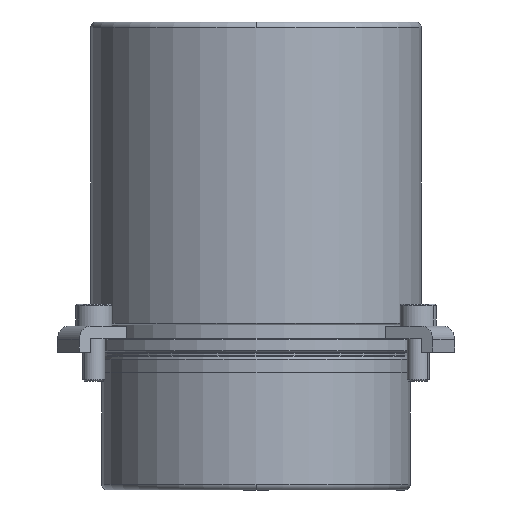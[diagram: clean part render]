
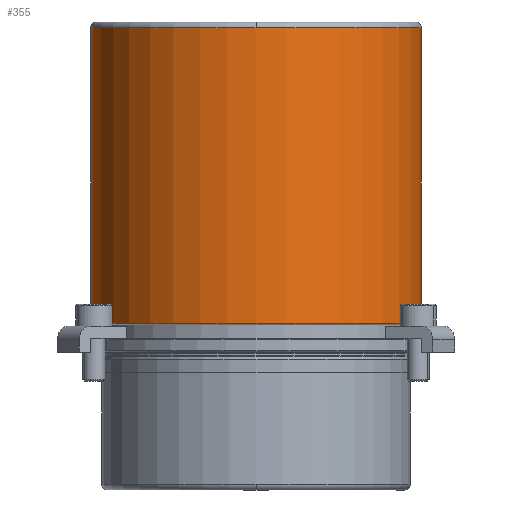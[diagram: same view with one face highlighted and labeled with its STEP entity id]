
A CAD part, front view. The second image highlights one B-rep face of the part: STEP entity #355.
In plain terms, the highlighted cylindrical face has radius 60 mm (diameter 120 mm), a partial arc.
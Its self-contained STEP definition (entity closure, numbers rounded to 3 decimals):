
#269=CARTESIAN_POINT('',(0.0,-60.,118.));
#270=VERTEX_POINT('',#269);
#296=CARTESIAN_POINT('',(-60.0,0.,118.));
#297=VERTEX_POINT('',#296);
#305=CARTESIAN_POINT('',(0.0,0.,118.));
#306=DIRECTION('',(0.0,0.0,1.0));
#307=DIRECTION('',(1.0,0.0,0.0));
#308=AXIS2_PLACEMENT_3D('',#305,#306,#307);
#309=CIRCLE('',#308,60.);
#310=EDGE_CURVE('',#297,#270,#309,.T.);
#315=CARTESIAN_POINT('',(0.0,0.,64.25));
#316=DIRECTION('',(0.0,0.,1.0));
#317=DIRECTION('',(1.0,0.0,0.0));
#318=AXIS2_PLACEMENT_3D('',#315,#316,#317);
#319=CYLINDRICAL_SURFACE('',#318,60.0);
#320=CARTESIAN_POINT('',(60.,0.,118.));
#321=VERTEX_POINT('',#320);
#322=CARTESIAN_POINT('',(60.0,0.,10.5));
#323=VERTEX_POINT('',#322);
#324=CARTESIAN_POINT('',(60.,0.,118.));
#325=DIRECTION('',(0.0,0.0,-1.0));
#326=VECTOR('',#325,107.5);
#327=LINE('',#324,#326);
#328=EDGE_CURVE('',#321,#323,#327,.T.);
#329=ORIENTED_EDGE('',*,*,#328,.F.);
#330=CARTESIAN_POINT('',(0.0,0.,118.));
#331=DIRECTION('',(0.0,0.0,1.0));
#332=DIRECTION('',(1.0,0.0,0.0));
#333=AXIS2_PLACEMENT_3D('',#330,#331,#332);
#334=CIRCLE('',#333,60.);
#335=EDGE_CURVE('',#270,#321,#334,.T.);
#336=ORIENTED_EDGE('',*,*,#335,.F.);
#337=ORIENTED_EDGE('',*,*,#310,.F.);
#338=CARTESIAN_POINT('',(-60.0,0.,10.5));
#339=VERTEX_POINT('',#338);
#340=CARTESIAN_POINT('',(-60.0,0.,118.));
#341=DIRECTION('',(0.0,0.0,-1.0));
#342=VECTOR('',#341,107.5);
#343=LINE('',#340,#342);
#344=EDGE_CURVE('',#297,#339,#343,.T.);
#345=ORIENTED_EDGE('',*,*,#344,.T.);
#346=CARTESIAN_POINT('',(0.0,0.,10.5));
#347=DIRECTION('',(0.0,0.0,1.0));
#348=DIRECTION('',(1.0,0.0,0.0));
#349=AXIS2_PLACEMENT_3D('',#346,#347,#348);
#350=CIRCLE('',#349,60.0);
#351=EDGE_CURVE('',#339,#323,#350,.T.);
#352=ORIENTED_EDGE('',*,*,#351,.T.);
#353=EDGE_LOOP('',(#329,#336,#337,#345,#352));
#354=FACE_OUTER_BOUND('',#353,.T.);
#355=ADVANCED_FACE('',(#354),#319,.T.);
